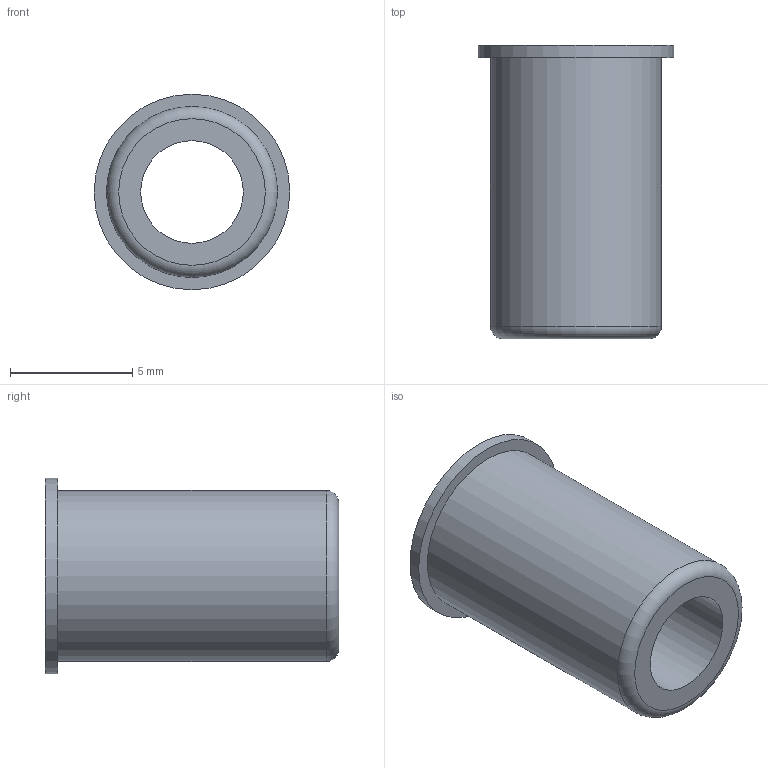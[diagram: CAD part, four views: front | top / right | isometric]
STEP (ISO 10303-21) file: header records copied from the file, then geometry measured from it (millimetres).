
FILE_DESCRIPTION (( 'STEP AP214' ), '1' );
FILE_NAME ('F10185.step', '2024-12-03T16:14:26', ( '' ), ( '' ), 'SwSTEP 2.0', 'SolidWorks 2023', '' );
FILE_SCHEMA (( 'AUTOMOTIVE_DESIGN' ));
Length unit declared in the file: millimetre
Products named in the file (1): F10185
Bounding box: 8 x 12 x 8 mm (x, y, z)
Volume: 300.3 mm3; surface area: 491.8 mm2
Topology: 1 solids, 1 shells, 7 faces, 12 edges, 8 vertices
Faces by surface type: plane 3, cylinder 3, torus 1
Full cylindrical faces by diameter (mm): 4.2 x1, 7 x1, 8 x1
Entity records: 171 total; most frequent: DIRECTION 30, CARTESIAN_POINT 22, AXIS2_PLACEMENT_3D 15, EDGE_LOOP 14, ORIENTED_EDGE 14, FACE_OUTER_BOUND 11, CIRCLE 7, EDGE_CURVE 7
